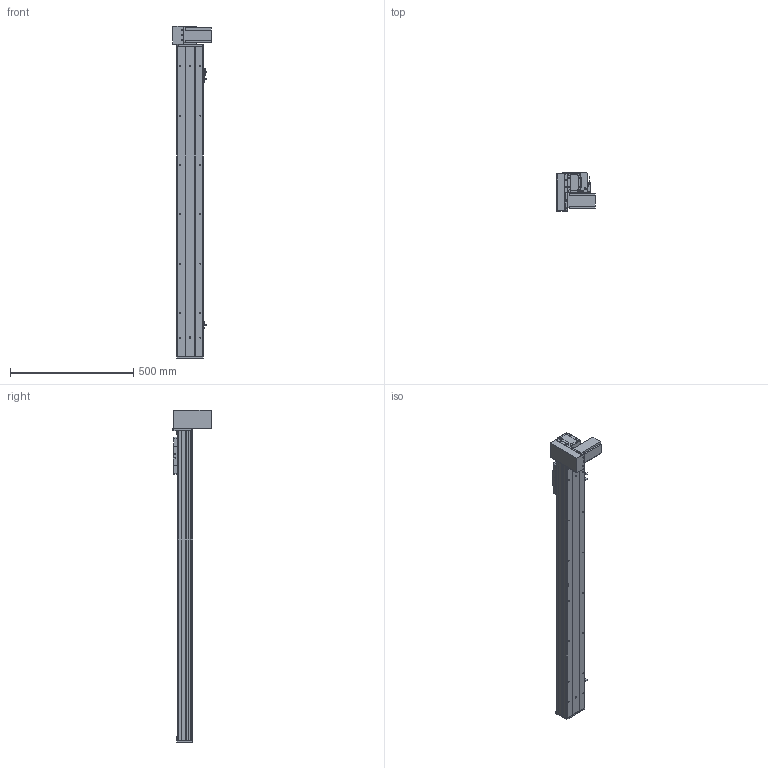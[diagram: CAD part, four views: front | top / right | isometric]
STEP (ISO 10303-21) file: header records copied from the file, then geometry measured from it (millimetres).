
FILE_DESCRIPTION (( 'STEP AP203' ), '1' );
FILE_NAME ('Y10CB-D90-S1000-BM-P400W.STEP', '2020-02-16T09:01:59', ( '微软用户' ), ( '微软中国' ), 'SwSTEP 2.0', 'SolidWorks 2017', '' );
FILE_SCHEMA (( 'CONFIG_CONTROL_DESIGN' ));
Length unit declared in the file: millimetre
Products named in the file (18): 00B-俋欶BM--; 10CB-詩湍-; Y10B-耜蚾蟀諉啣----; Y10CB- 掛极耜裔啣-毀---; 0CB-雄赽釱---; Y10CB-D90-S1000-BM-P400W; Y10C---詩湍揤啣; 0Cb-俋欶---; 10CB9-掛极; Y10B-々湍喘謫眊楊擘啣--; 10CB-耜裔; 0B-萇儂楊擘啣; Y135C-陔俋离換覜結え-; san松下电机400不带刹车----; Y100-135俋离換覜ん--; 0B-源倛裔啣; Y10B--々湍喘謫眊--666; 0B-埴倛裔啣
Assembly tree (21 placements, depth 2):
  Y10CB-D90-S1000-BM-P400W
    0CB-雄赽釱---
    0Cb-俋欶---
    Y10B-々湍喘謫眊楊擘啣--
    0B-萇儂楊擘啣
    san松下电机400不带刹车----
    0B-源倛裔啣
    0B-埴倛裔啣
    10CB-詩湍-
    Y10CB- 掛极耜裔啣-毀---  x2
    Y10C---詩湍揤啣  x2
    10CB9-掛极
    10CB-耜裔
    Y135C-陔俋离換覜結え-
    Y100-135俋离換覜ん--  x3
    Y10B--々湍喘謫眊--666
    00B-俋欶BM--
    Y10B-耜蚾蟀諉啣----
Bounding box: 157 x 156 x 1346 mm (x, y, z)
Volume: 3135871.6 mm3; surface area: 1411569.5 mm2
Topology: 21 solids, 21 shells, 990 faces, 2643 edges, 1730 vertices
Faces by surface type: cylinder 489, plane 477, cone 24
Entity records: 30912 total; most frequent: CARTESIAN_POINT 5469, DIRECTION 4998, ORIENTED_EDGE 4756, EDGE_CURVE 2378, AXIS2_PLACEMENT_3D 1789, VERTEX_POINT 1556, VECTOR 1420, LINE 1420
